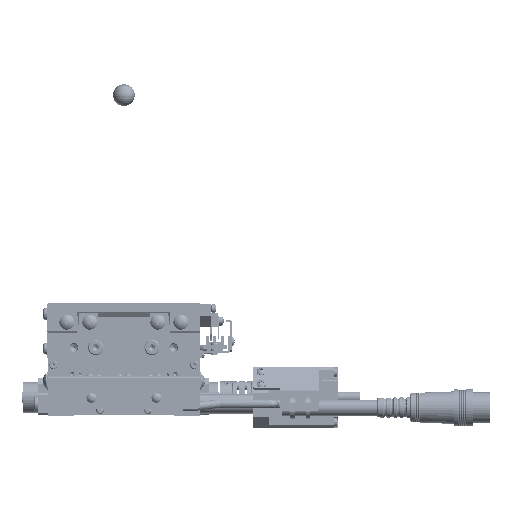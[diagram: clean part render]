
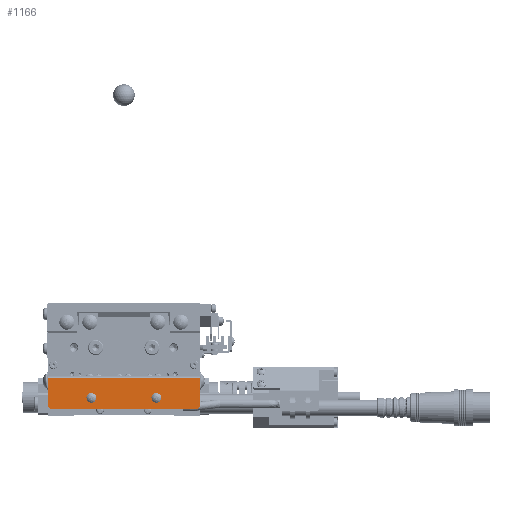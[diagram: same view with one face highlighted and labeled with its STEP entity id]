
A CAD part, front view. The second image highlights one B-rep face of the part: STEP entity #1166.
In plain terms, the highlighted planar face has unit normal (0, -1, 0).
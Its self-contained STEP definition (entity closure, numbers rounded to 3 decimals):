
#1166=ADVANCED_FACE('',(#13286,#13287,#13288),#13285,.T.);
#13285=PLANE('',#69525);
#13286=FACE_OUTER_BOUND('',#69526,.T.);
#13287=FACE_BOUND('',#69527,.T.);
#13288=FACE_BOUND('',#69528,.T.);
#69522=CARTESIAN_POINT('',(-42.,-50.,18.65));
#69523=DIRECTION('',(0.,-1.,0.));
#69524=DIRECTION('',(0.,0.,-1.));
#69525=AXIS2_PLACEMENT_3D('',#69522,#69523,#69524);
#69526=EDGE_LOOP('',(#105539,#105540,#105541,#105542,#105543,#105544));
#69527=EDGE_LOOP('',(#105545,#105546,#105547));
#69528=EDGE_LOOP('',(#105548,#105549,#105550));
#105539=ORIENTED_EDGE('',*,*,#133915,.F.);
#105540=ORIENTED_EDGE('',*,*,#133920,.T.);
#105541=ORIENTED_EDGE('',*,*,#133906,.T.);
#105542=ORIENTED_EDGE('',*,*,#133921,.T.);
#105543=ORIENTED_EDGE('',*,*,#133922,.T.);
#105544=ORIENTED_EDGE('',*,*,#133923,.T.);
#105545=ORIENTED_EDGE('',*,*,#133924,.F.);
#105546=ORIENTED_EDGE('',*,*,#133925,.F.);
#105547=ORIENTED_EDGE('',*,*,#133926,.F.);
#105548=ORIENTED_EDGE('',*,*,#133927,.F.);
#105549=ORIENTED_EDGE('',*,*,#133928,.F.);
#105550=ORIENTED_EDGE('',*,*,#133929,.F.);
#133906=EDGE_CURVE('',#161241,#161242,#161243,.T.);
#133915=EDGE_CURVE('',#161298,#161305,#161306,.T.);
#133920=EDGE_CURVE('',#161298,#161241,#161339,.T.);
#133921=EDGE_CURVE('',#161242,#161345,#161346,.T.);
#133922=EDGE_CURVE('',#161345,#161352,#161353,.T.);
#133923=EDGE_CURVE('',#161352,#161305,#161359,.T.);
#133924=EDGE_CURVE('',#161365,#161366,#161367,.T.);
#133925=EDGE_CURVE('',#161373,#161365,#161374,.T.);
#133926=EDGE_CURVE('',#161366,#161373,#161380,.T.);
#133927=EDGE_CURVE('',#161386,#161387,#161388,.T.);
#133928=EDGE_CURVE('',#161394,#161386,#161395,.T.);
#133929=EDGE_CURVE('',#161387,#161394,#161401,.T.);
#161241=VERTEX_POINT('',#253983);
#161242=VERTEX_POINT('',#253984);
#161243=LINE('',#253985,#253986);
#161298=VERTEX_POINT('',#254017);
#161305=VERTEX_POINT('',#254022);
#161306=LINE('',#254023,#254024);
#161339=LINE('',#254041,#254042);
#161345=VERTEX_POINT('',#254044);
#161346=LINE('',#254045,#254046);
#161352=VERTEX_POINT('',#254048);
#161353=LINE('',#254049,#254050);
#161359=LINE('',#254052,#254053);
#161365=VERTEX_POINT('',#254055);
#161366=VERTEX_POINT('',#254056);
#161367=CIRCLE('',#254060,2.25);
#161373=VERTEX_POINT('',#254061);
#161374=CIRCLE('',#254065,2.25);
#161380=CIRCLE('',#254069,2.25);
#161386=VERTEX_POINT('',#254070);
#161387=VERTEX_POINT('',#254071);
#161388=CIRCLE('',#254075,2.25);
#161394=VERTEX_POINT('',#254076);
#161395=CIRCLE('',#254080,2.25);
#161401=CIRCLE('',#254084,2.25);
#253983=CARTESIAN_POINT('',(-35.,-50.,17.25));
#253984=CARTESIAN_POINT('',(-35.,-50.,4.25));
#253985=CARTESIAN_POINT('',(-35.,-50.,17.25));
#253986=VECTOR('',#253987,13.);
#253987=DIRECTION('',(0.,0.,-1.));
#254017=CARTESIAN_POINT('',(35.,-50.,17.25));
#254022=CARTESIAN_POINT('',(35.,-50.,4.25));
#254023=CARTESIAN_POINT('',(35.,-50.,17.25));
#254024=VECTOR('',#254025,13.);
#254025=DIRECTION('',(0.,0.,-1.));
#254041=CARTESIAN_POINT('',(35.,-50.,17.25));
#254042=VECTOR('',#254043,70.);
#254043=DIRECTION('',(-1.,0.,0.));
#254044=CARTESIAN_POINT('',(-34.,-50.,3.25));
#254045=CARTESIAN_POINT('',(-35.,-50.,4.25));
#254046=VECTOR('',#254047,1.414);
#254047=DIRECTION('',(0.707,0.,-0.707));
#254048=CARTESIAN_POINT('',(34.,-50.,3.25));
#254049=CARTESIAN_POINT('',(-34.,-50.,3.25));
#254050=VECTOR('',#254051,68.);
#254051=DIRECTION('',(1.,0.,0.));
#254052=CARTESIAN_POINT('',(34.,-50.,3.25));
#254053=VECTOR('',#254054,1.414);
#254054=DIRECTION('',(0.707,0.,0.707));
#254055=CARTESIAN_POINT('',(12.75,-50.,8.25));
#254056=CARTESIAN_POINT('',(15.,-50.,6.));
#254057=CARTESIAN_POINT('',(15.,-50.,8.25));
#254058=DIRECTION('',(0.,-1.,0.));
#254059=DIRECTION('',(0.,0.,-1.));
#254060=AXIS2_PLACEMENT_3D('',#254057,#254058,#254059);
#254061=CARTESIAN_POINT('',(17.25,-50.,8.25));
#254062=CARTESIAN_POINT('',(15.,-50.,8.25));
#254063=DIRECTION('',(0.,-1.,0.));
#254064=DIRECTION('',(0.,0.,-1.));
#254065=AXIS2_PLACEMENT_3D('',#254062,#254063,#254064);
#254066=CARTESIAN_POINT('',(15.,-50.,8.25));
#254067=DIRECTION('',(0.,-1.,0.));
#254068=DIRECTION('',(0.,0.,-1.));
#254069=AXIS2_PLACEMENT_3D('',#254066,#254067,#254068);
#254070=CARTESIAN_POINT('',(-17.25,-50.,8.25));
#254071=CARTESIAN_POINT('',(-15.,-50.,6.));
#254072=CARTESIAN_POINT('',(-15.,-50.,8.25));
#254073=DIRECTION('',(0.,-1.,0.));
#254074=DIRECTION('',(0.,0.,-1.));
#254075=AXIS2_PLACEMENT_3D('',#254072,#254073,#254074);
#254076=CARTESIAN_POINT('',(-12.75,-50.,8.25));
#254077=CARTESIAN_POINT('',(-15.,-50.,8.25));
#254078=DIRECTION('',(0.,-1.,0.));
#254079=DIRECTION('',(0.,0.,-1.));
#254080=AXIS2_PLACEMENT_3D('',#254077,#254078,#254079);
#254081=CARTESIAN_POINT('',(-15.,-50.,8.25));
#254082=DIRECTION('',(0.,-1.,0.));
#254083=DIRECTION('',(0.,0.,-1.));
#254084=AXIS2_PLACEMENT_3D('',#254081,#254082,#254083);
